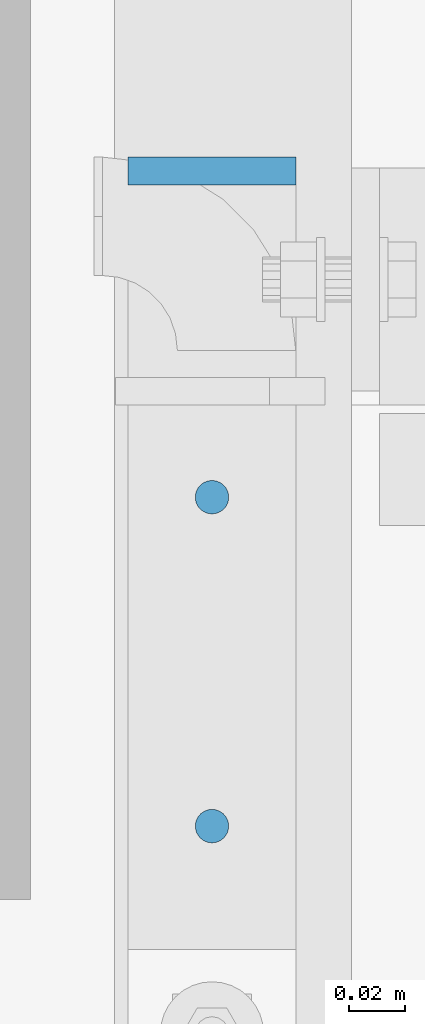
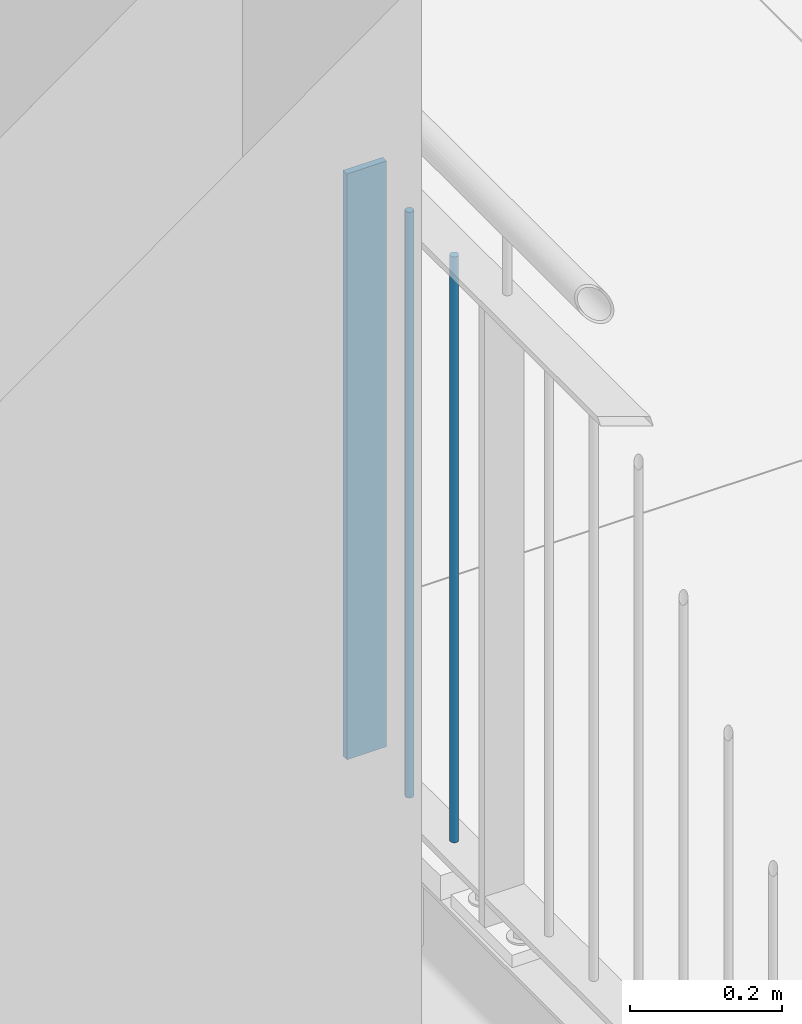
# One storey, part 16 of 821: 3 columns.
"""IFC2X3 building model written with IfcOpenShell, lengths in millimetres."""

from ifc_helpers import new_model, entity, si_unit, converted_unit, frame, origin, origin_with_axes, origin_2d, place, context, project, spatial, rectangle, circle, extrude, clip, halfspace, material, element, save


model = new_model("IFC2X3")

# Units and contexts
model_context = context("Model", 3, precision=1e-09, world=origin_with_axes())
ifc_project = project(units=[si_unit("LENGTHUNIT", "METRE", prefix="MILLI"), si_unit("AREAUNIT", "SQUARE_METRE"), si_unit("VOLUMEUNIT", "CUBIC_METRE"), converted_unit("PLANEANGLEUNIT", "DEGREE", entity("IfcPlaneAngleMeasure", 0.01745329), si_unit("PLANEANGLEUNIT", "RADIAN"), dimensions=[0, 0, 0, 0, 0, 0, 0])], contexts=[model_context])

# Site, building, storey
site_placement = place(None, origin_with_axes())
site = spatial("IfcSite", under=ifc_project, at=site_placement, Name="Cnopf'sche Kinderklinik", CompositionType="ELEMENT")
building_placement = place(site_placement, origin_with_axes())
building = spatial("IfcBuilding", under=site, at=building_placement, Name="Struktur 1", CompositionType="ELEMENT")
storey_placement = place(building_placement, origin_with_axes())
storey = spatial("IfcBuildingStorey", under=building, at=storey_placement, Name="Default Storey", CompositionType="ELEMENT", Elevation=0.0)

# Columns
ifc_material = material(Name="S235JR")
column_1_placement = place(None, frame((3271.713402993, 5585.988971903, 8342.285281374), z_axis=(0.0, 0.0, -1.0), x_axis=(0.0, -1.0, 0.0)))
element("IfcColumn", 1, at=column_1_placement, inside=storey, material=ifc_material, Name="Railing_Picket_Landing#97", ObjectType="Railing_Picket_Landing#97", context=model_context, shape_type="Clipping", body=[
    clip(clip(extrude(circle(Radius=6.0, at=origin_2d()), origin(), (0.0, 0.0, 1.0), 965.770562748), halfspace(frame((5585.988971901, 3271.713402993, 13.486281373), z_axis=(0.0, 0.0, 1.0), x_axis=(0.0, 1.0, 0.0)), True)), halfspace(frame((5585.988971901, 3271.713402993, 952.284281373), z_axis=(0.0, 0.0, -1.0), x_axis=(0.0, -1.0, 0.0)), True)),
])
column_2_placement = place(None, frame((3271.713402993, 5703.786135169, 8342.285281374), z_axis=(0.0, 0.0, -1.0), x_axis=(0.0, -1.0, 0.0)))
element("IfcColumn", 2, at=column_2_placement, inside=storey, material=ifc_material, Name="Railing_Picket_Landing#96", ObjectType="Railing_Picket_Landing#96", context=model_context, shape_type="Clipping", body=[
    clip(clip(extrude(circle(Radius=6.0, at=origin_2d()), origin(), (0.0, 0.0, 1.0), 965.770562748), halfspace(frame((5703.786135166, 3271.713402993, 13.486281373), z_axis=(0.0, 0.0, 1.0), x_axis=(0.0, 1.0, 0.0)), True)), halfspace(frame((5703.786135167, 3271.713402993, 952.284281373), z_axis=(0.0, 0.0, -1.0), x_axis=(0.0, -1.0, 0.0)), True)),
])
column_3_placement = place(None, frame((3271.713402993, 5820.583298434, 7390.0), z_axis=(0.0, 0.0, -1.0), x_axis=(0.0, 1.0, 0.0)))
element("IfcColumn", 3, at=column_3_placement, inside=storey, material=ifc_material, Name="Railing_Kneerail_Landing#22", ObjectType="Railing_Kneerail_Landing#22", context=model_context, shape_type="SweptSolid", body=[
    extrude(rectangle(XDim=10.0, YDim=60.0, at=origin_2d()), origin(), (0.0, 0.0, -1.0), 938.8),
])

save(model, "model.ifc")
